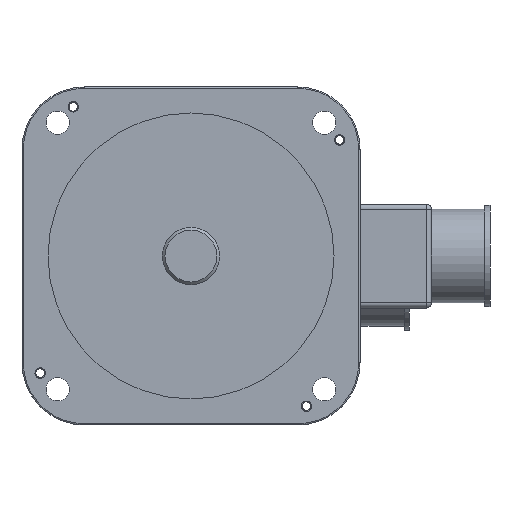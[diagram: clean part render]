
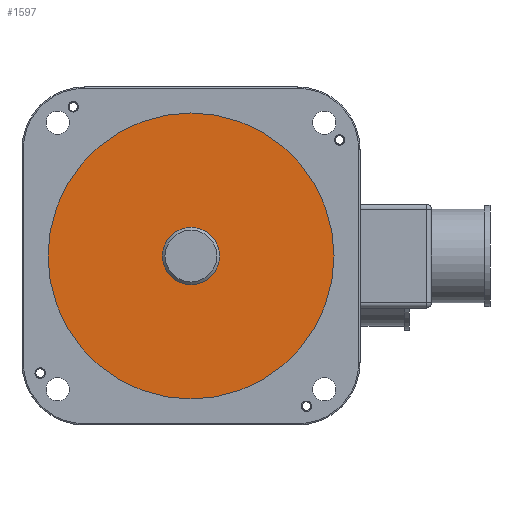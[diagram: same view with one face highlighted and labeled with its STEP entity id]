
A CAD part, left-side view. The second image highlights one B-rep face of the part: STEP entity #1597.
In plain terms, the highlighted planar face has unit normal (-1, 0, 0).
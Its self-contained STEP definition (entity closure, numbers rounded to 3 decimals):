
#181=FACE_BOUND('',#2266,.T.);
#182=FACE_BOUND('',#2267,.T.);
#532=PLANE('',#5511);
#688=CIRCLE('',#5504,11.);
#691=CIRCLE('',#5509,55.);
#1597=ADVANCED_FACE('',(#181,#182),#532,.F.);
#2266=EDGE_LOOP('',(#2869));
#2267=EDGE_LOOP('',(#2870));
#2869=ORIENTED_EDGE('',*,*,#4846,.T.);
#2870=ORIENTED_EDGE('',*,*,#4849,.F.);
#4366=VERTEX_POINT('',#8496);
#4369=VERTEX_POINT('',#8504);
#4846=EDGE_CURVE('',#4366,#4366,#688,.T.);
#4849=EDGE_CURVE('',#4369,#4369,#691,.T.);
#5504=AXIS2_PLACEMENT_3D('',#8495,#6377,#6378);
#5509=AXIS2_PLACEMENT_3D('',#8503,#6387,#6388);
#5511=AXIS2_PLACEMENT_3D('',#8506,#6391,#6392);
#6377=DIRECTION('',(1.,0.,0.));
#6378=DIRECTION('',(0.,1.,0.));
#6387=DIRECTION('',(1.,0.,0.));
#6388=DIRECTION('',(0.,1.,0.));
#6391=DIRECTION('',(1.,0.,0.));
#6392=DIRECTION('',(0.,0.,-1.));
#8495=CARTESIAN_POINT('',(52.,0.,0.));
#8496=CARTESIAN_POINT('',(52.,11.,0.));
#8503=CARTESIAN_POINT('',(52.,0.,0.));
#8504=CARTESIAN_POINT('',(52.,55.,0.));
#8506=CARTESIAN_POINT('',(52.,0.,0.));
